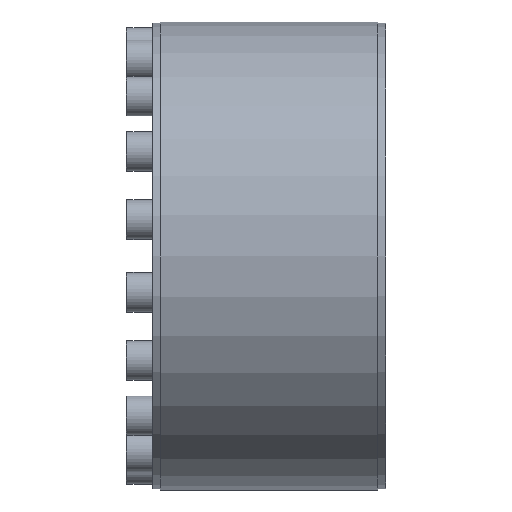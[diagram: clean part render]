
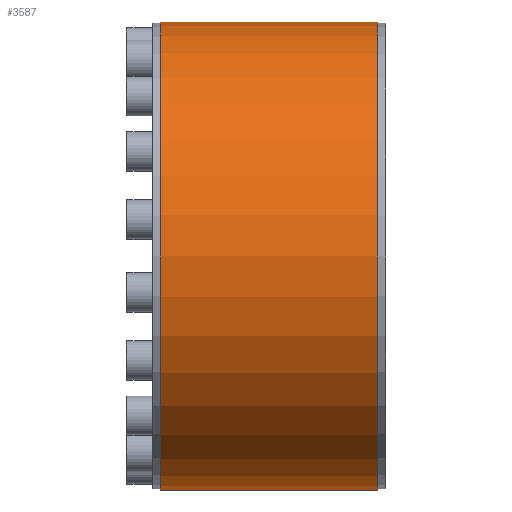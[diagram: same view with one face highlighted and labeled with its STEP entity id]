
A CAD part, left-side view. The second image highlights one B-rep face of the part: STEP entity #3587.
In plain terms, the highlighted cylindrical face has radius 177.5 mm (diameter 355 mm), a partial arc.
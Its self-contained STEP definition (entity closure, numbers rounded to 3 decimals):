
#3 = DIRECTION ( 'NONE',  ( 0., -1., 0. ) ) ;
#245 = VECTOR ( 'NONE', #966, 1000. ) ;
#507 = CARTESIAN_POINT ( 'NONE',  ( 0., 0., -177.5 ) ) ;
#694 = VERTEX_POINT ( 'NONE', #4083 ) ;
#966 = DIRECTION ( 'NONE',  ( 0., -1., 0. ) ) ;
#1319 = CARTESIAN_POINT ( 'NONE',  ( 0., -82.5, 177.5 ) ) ;
#1328 = CIRCLE ( 'NONE', #6369, 177.5 ) ;
#1407 = CARTESIAN_POINT ( 'NONE',  ( 0., 82.5, 177.5 ) ) ;
#2244 = AXIS2_PLACEMENT_3D ( 'NONE', #3528, #5006, #4042 ) ;
#2311 = AXIS2_PLACEMENT_3D ( 'NONE', #4783, #4757, #5774 ) ;
#2555 = VECTOR ( 'NONE', #4527, 1000. ) ;
#2662 = FACE_OUTER_BOUND ( 'NONE', #3306, .T. ) ;
#2844 = VERTEX_POINT ( 'NONE', #1319 ) ;
#2932 = CARTESIAN_POINT ( 'NONE',  ( 0., 0., 177.5 ) ) ;
#2985 = CYLINDRICAL_SURFACE ( 'NONE', #2311, 177.5 ) ;
#3103 = EDGE_CURVE ( 'NONE', #694, #3285, #5775, .T. ) ;
#3139 = ORIENTED_EDGE ( 'NONE', *, *, #3867, .T. ) ;
#3275 = CARTESIAN_POINT ( 'NONE',  ( 0., -82.5, -177.5 ) ) ;
#3285 = VERTEX_POINT ( 'NONE', #3275 ) ;
#3306 = EDGE_LOOP ( 'NONE', ( #5545, #3139, #4150, #6481 ) ) ;
#3528 = CARTESIAN_POINT ( 'NONE',  ( 0., -82.5, 0. ) ) ;
#3587 = ADVANCED_FACE ( 'NONE', ( #2662 ), #2985, .T. ) ;
#3867 = EDGE_CURVE ( 'NONE', #5467, #694, #1328, .T. ) ;
#4042 = DIRECTION ( 'NONE',  ( 0., 0., -1. ) ) ;
#4083 = CARTESIAN_POINT ( 'NONE',  ( 0., 82.5, -177.5 ) ) ;
#4150 = ORIENTED_EDGE ( 'NONE', *, *, #3103, .T. ) ;
#4527 = DIRECTION ( 'NONE',  ( 0., -1., 0. ) ) ;
#4728 = EDGE_CURVE ( 'NONE', #5467, #2844, #6508, .T. ) ;
#4757 = DIRECTION ( 'NONE',  ( 0., -1., 0. ) ) ;
#4783 = CARTESIAN_POINT ( 'NONE',  ( 0., 0., 0. ) ) ;
#5006 = DIRECTION ( 'NONE',  ( 0., -1., 0. ) ) ;
#5029 = EDGE_CURVE ( 'NONE', #2844, #3285, #6044, .T. ) ;
#5467 = VERTEX_POINT ( 'NONE', #1407 ) ;
#5545 = ORIENTED_EDGE ( 'NONE', *, *, #4728, .F. ) ;
#5552 = CARTESIAN_POINT ( 'NONE',  ( 0., 82.5, 0. ) ) ;
#5774 = DIRECTION ( 'NONE',  ( 0., 0., -1. ) ) ;
#5775 = LINE ( 'NONE', #507, #245 ) ;
#6044 = CIRCLE ( 'NONE', #2244, 177.5 ) ;
#6369 = AXIS2_PLACEMENT_3D ( 'NONE', #5552, #3, #6488 ) ;
#6481 = ORIENTED_EDGE ( 'NONE', *, *, #5029, .F. ) ;
#6488 = DIRECTION ( 'NONE',  ( 0., 0., -1. ) ) ;
#6508 = LINE ( 'NONE', #2932, #2555 ) ;
